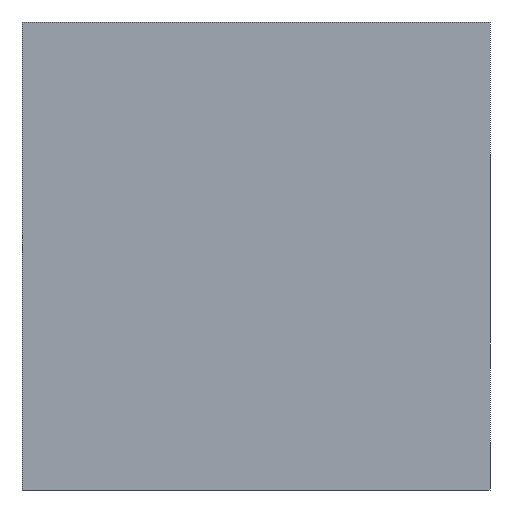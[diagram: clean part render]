
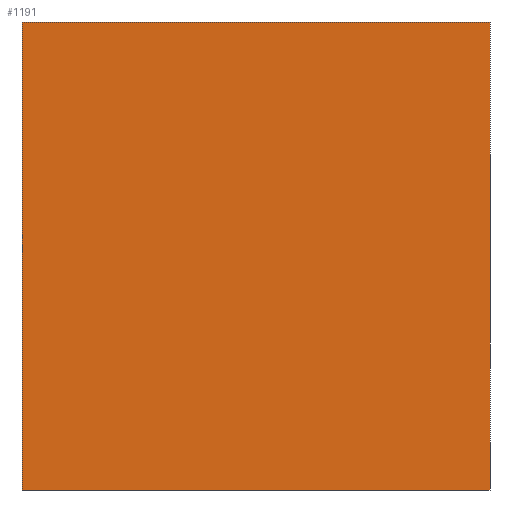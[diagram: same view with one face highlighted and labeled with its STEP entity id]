
A CAD part, left-side view. The second image highlights one B-rep face of the part: STEP entity #1191.
In plain terms, the highlighted planar face has unit normal (-1, 0, 0).
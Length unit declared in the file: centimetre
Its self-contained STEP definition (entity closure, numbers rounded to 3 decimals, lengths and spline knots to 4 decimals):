
#4 = FACE_OUTER_BOUND ( 'NONE', #678, .T. ) ;
#14 = DIRECTION ( 'NONE',  ( 1., 0., 0. ) ) ;
#15 = CARTESIAN_POINT ( 'NONE',  ( 0., 0., 1000. ) ) ;
#33 = LINE ( 'NONE', #417, #686 ) ;
#41 = VECTOR ( 'NONE', #133, 100. ) ;
#117 = EDGE_CURVE ( 'NONE', #721, #513, #743, .T. ) ;
#133 = DIRECTION ( 'NONE',  ( 0., -1., 0. ) ) ;
#175 = LINE ( 'NONE', #956, #1070 ) ;
#209 = CARTESIAN_POINT ( 'NONE',  ( 0., 0., 0. ) ) ;
#261 = VERTEX_POINT ( 'NONE', #775 ) ;
#355 = DIRECTION ( 'NONE',  ( 0., 0., -1. ) ) ;
#392 = CARTESIAN_POINT ( 'NONE',  ( 0., 1000., 1000. ) ) ;
#417 = CARTESIAN_POINT ( 'NONE',  ( 0., 1000., 0. ) ) ;
#420 = CARTESIAN_POINT ( 'NONE',  ( 0., 1000., 1000. ) ) ;
#493 = DIRECTION ( 'NONE',  ( 0., 0., -1. ) ) ;
#513 = VERTEX_POINT ( 'NONE', #209 ) ;
#522 = EDGE_CURVE ( 'NONE', #855, #721, #695, .T. ) ;
#646 = EDGE_CURVE ( 'NONE', #261, #513, #33, .T. ) ;
#678 = EDGE_LOOP ( 'NONE', ( #785, #1006, #977, #911 ) ) ;
#686 = VECTOR ( 'NONE', #788, 100. ) ;
#695 = LINE ( 'NONE', #420, #41 ) ;
#721 = VERTEX_POINT ( 'NONE', #15 ) ;
#743 = LINE ( 'NONE', #1210, #930 ) ;
#775 = CARTESIAN_POINT ( 'NONE',  ( 0., 1000., 0. ) ) ;
#785 = ORIENTED_EDGE ( 'NONE', *, *, #646, .T. ) ;
#788 = DIRECTION ( 'NONE',  ( 0., -1., 0. ) ) ;
#855 = VERTEX_POINT ( 'NONE', #1107 ) ;
#858 = DIRECTION ( 'NONE',  ( 0., 0., -1. ) ) ;
#877 = PLANE ( 'NONE',  #928 ) ;
#911 = ORIENTED_EDGE ( 'NONE', *, *, #1099, .T. ) ;
#928 = AXIS2_PLACEMENT_3D ( 'NONE', #392, #14, #493 ) ;
#930 = VECTOR ( 'NONE', #355, 100. ) ;
#956 = CARTESIAN_POINT ( 'NONE',  ( 0., 1000., 1000. ) ) ;
#977 = ORIENTED_EDGE ( 'NONE', *, *, #522, .F. ) ;
#1006 = ORIENTED_EDGE ( 'NONE', *, *, #117, .F. ) ;
#1070 = VECTOR ( 'NONE', #858, 100. ) ;
#1099 = EDGE_CURVE ( 'NONE', #855, #261, #175, .T. ) ;
#1107 = CARTESIAN_POINT ( 'NONE',  ( 0., 1000., 1000. ) ) ;
#1191 = ADVANCED_FACE ( 'NONE', ( #4 ), #877, .F. ) ;
#1210 = CARTESIAN_POINT ( 'NONE',  ( 0., 0., 1000. ) ) ;
